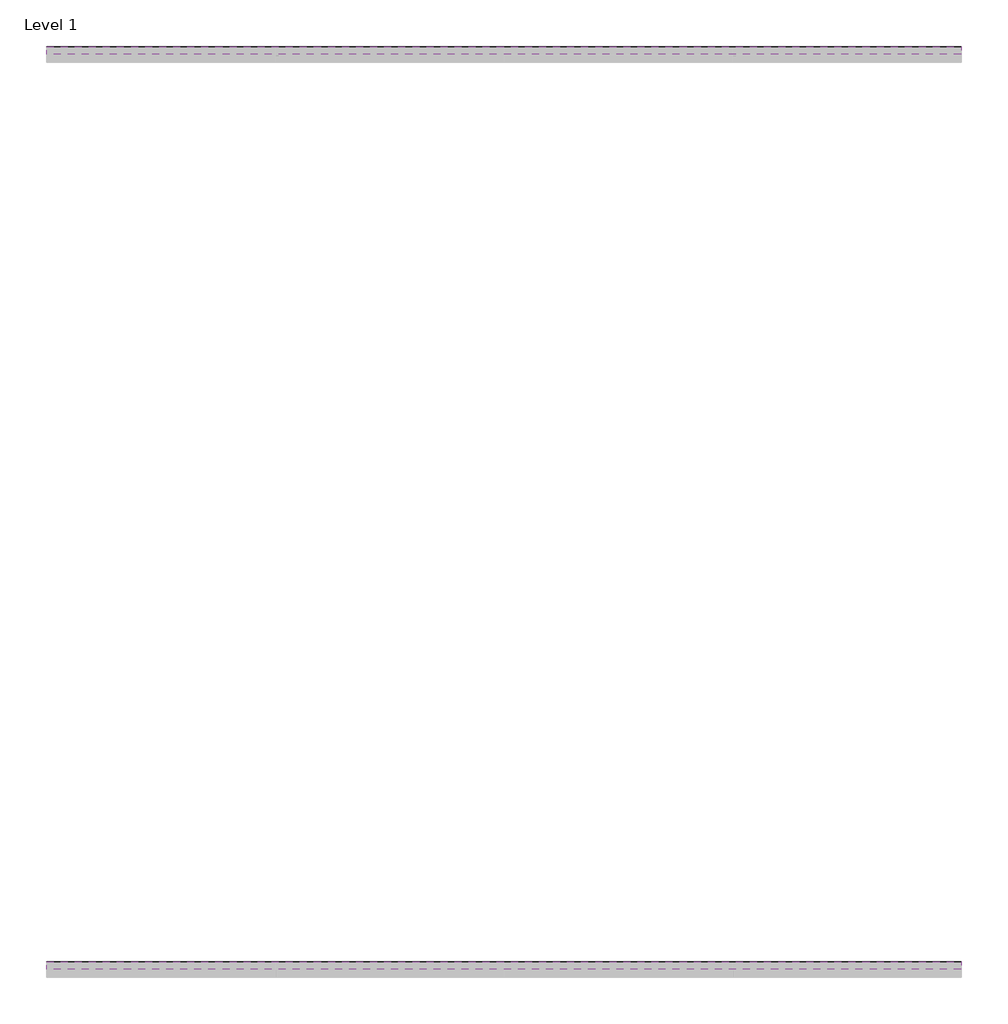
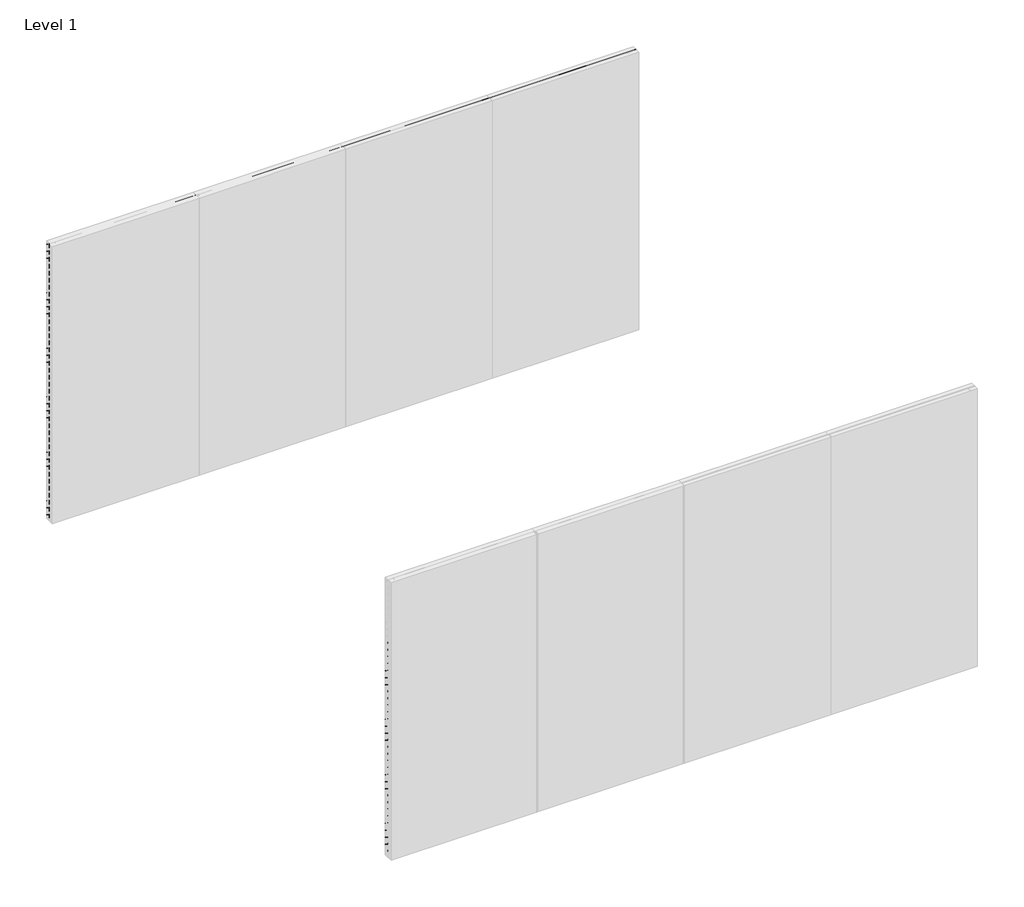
# One storey, part 2 of 2: 71 proxies.
"""IFC4 building model written with IfcOpenShell, lengths in millimetres."""

from ifc_helpers import new_model, si_unit, frame, origin, place, context, project, spatial, polyline, outline, extrude, element, save

model = new_model("IFC4")

# Units and contexts
model_context = context("Model", 3, world=origin())
ifc_project = project(units=[si_unit("LENGTHUNIT", "METRE", prefix="MILLI")], contexts=[model_context])

# Site, building, storey
site = spatial("IfcSite", under=ifc_project)
building = spatial("IfcBuilding", under=site)
storey = spatial("IfcBuildingStorey", under=building, Name="Level 1", Elevation=0.0)

# Proxies
placement = place(None, origin())
element("IfcBuildingElementProxy", 1, Name="Wall Sweeps", at=placement, inside=storey, context=model_context, shape_type="SweptSolid", body=[
    extrude(outline(polyline([(-1995.0, 3000.0), (-1995.0, 2991.2901632), (-1946.0, 2963.0), (-1946.0, 2928.0), (-1997.0, 2957.4448637), (-1997.0, 3000.0), (-1995.0, 3000.0)])), frame((0.0, 0.0, 0.0), z_axis=(1.0, 0.0, 0.0), x_axis=(0.0, 1.0, 0.0)), (0.0, 0.0, 1.0), 6000.0),
])
element("IfcBuildingElementProxy", 2, Name="Wall Sweeps", at=placement, inside=storey, context=model_context, shape_type="SweptSolid", body=[
    extrude(outline(polyline([(-1995.0, 2925.0), (-1995.0, 2916.2901632), (-1946.0, 2888.0), (-1946.0, 2853.0), (-1997.0, 2882.4448637), (-1997.0, 2925.0), (-1995.0, 2925.0)])), frame((0.0, 0.0, 0.0), z_axis=(1.0, 0.0, 0.0), x_axis=(0.0, 1.0, 0.0)), (0.0, 0.0, 1.0), 6000.0),
])
element("IfcBuildingElementProxy", 3, Name="Wall Sweeps", at=placement, inside=storey, context=model_context, shape_type="SweptSolid", body=[
    extrude(outline(polyline([(-1995.0, 2850.0), (-1995.0, 2841.2901632), (-1946.0, 2813.0), (-1946.0, 2778.0), (-1997.0, 2807.4448637), (-1997.0, 2850.0), (-1995.0, 2850.0)])), frame((0.0, 0.0, 0.0), z_axis=(1.0, 0.0, 0.0), x_axis=(0.0, 1.0, 0.0)), (0.0, 0.0, 1.0), 6000.0),
])
element("IfcBuildingElementProxy", 4, Name="Wall Sweeps", at=placement, inside=storey, context=model_context, shape_type="SweptSolid", body=[
    extrude(outline(polyline([(-1995.0, 2775.0), (-1995.0, 2766.2901632), (-1946.0, 2738.0), (-1946.0, 2703.0), (-1997.0, 2732.4448637), (-1997.0, 2775.0), (-1995.0, 2775.0)])), frame((0.0, 0.0, 0.0), z_axis=(1.0, 0.0, 0.0), x_axis=(0.0, 1.0, 0.0)), (0.0, 0.0, 1.0), 6000.0),
])
element("IfcBuildingElementProxy", 5, Name="Wall Sweeps", at=placement, inside=storey, context=model_context, shape_type="SweptSolid", body=[
    extrude(outline(polyline([(-1995.0, 2700.0), (-1995.0, 2691.2901632), (-1946.0, 2663.0), (-1946.0, 2628.0), (-1997.0, 2657.4448637), (-1997.0, 2700.0), (-1995.0, 2700.0)])), frame((0.0, 0.0, 0.0), z_axis=(1.0, 0.0, 0.0), x_axis=(0.0, 1.0, 0.0)), (0.0, 0.0, 1.0), 6000.0),
])
element("IfcBuildingElementProxy", 6, Name="Wall Sweeps", at=placement, inside=storey, context=model_context, shape_type="SweptSolid", body=[
    extrude(outline(polyline([(-1995.0, 2625.0), (-1995.0, 2616.2901632), (-1946.0, 2588.0), (-1946.0, 2553.0), (-1997.0, 2582.4448637), (-1997.0, 2625.0), (-1995.0, 2625.0)])), frame((0.0, 0.0, 0.0), z_axis=(1.0, 0.0, 0.0), x_axis=(0.0, 1.0, 0.0)), (0.0, 0.0, 1.0), 6000.0),
])
element("IfcBuildingElementProxy", 7, Name="Wall Sweeps", at=placement, inside=storey, context=model_context, shape_type="SweptSolid", body=[
    extrude(outline(polyline([(-1995.0, 2550.0), (-1995.0, 2541.2901632), (-1946.0, 2513.0), (-1946.0, 2478.0), (-1997.0, 2507.4448637), (-1997.0, 2550.0), (-1995.0, 2550.0)])), frame((0.0, 0.0, 0.0), z_axis=(1.0, 0.0, 0.0), x_axis=(0.0, 1.0, 0.0)), (0.0, 0.0, 1.0), 6000.0),
])
element("IfcBuildingElementProxy", 8, Name="Wall Sweeps", at=placement, inside=storey, context=model_context, shape_type="SweptSolid", body=[
    extrude(outline(polyline([(-1995.0, 2475.0), (-1995.0, 2466.2901632), (-1946.0, 2438.0), (-1946.0, 2403.0), (-1997.0, 2432.4448637), (-1997.0, 2475.0), (-1995.0, 2475.0)])), frame((0.0, 0.0, 0.0), z_axis=(1.0, 0.0, 0.0), x_axis=(0.0, 1.0, 0.0)), (0.0, 0.0, 1.0), 6000.0),
])
element("IfcBuildingElementProxy", 9, Name="Wall Sweeps", at=placement, inside=storey, context=model_context, shape_type="SweptSolid", body=[
    extrude(outline(polyline([(-1995.0, 2400.0), (-1995.0, 2391.2901632), (-1946.0, 2363.0), (-1946.0, 2328.0), (-1997.0, 2357.4448637), (-1997.0, 2400.0), (-1995.0, 2400.0)])), frame((0.0, 0.0, 0.0), z_axis=(1.0, 0.0, 0.0), x_axis=(0.0, 1.0, 0.0)), (0.0, 0.0, 1.0), 6000.0),
])
element("IfcBuildingElementProxy", 10, Name="Wall Sweeps", at=placement, inside=storey, context=model_context, shape_type="SweptSolid", body=[
    extrude(outline(polyline([(-1995.0, 2325.0), (-1995.0, 2316.2901632), (-1946.0, 2288.0), (-1946.0, 2253.0), (-1997.0, 2282.4448637), (-1997.0, 2325.0), (-1995.0, 2325.0)])), frame((0.0, 0.0, 0.0), z_axis=(1.0, 0.0, 0.0), x_axis=(0.0, 1.0, 0.0)), (0.0, 0.0, 1.0), 6000.0),
])
element("IfcBuildingElementProxy", 11, Name="Wall Sweeps", at=placement, inside=storey, context=model_context, shape_type="SweptSolid", body=[
    extrude(outline(polyline([(-1995.0, 2250.0), (-1995.0, 2241.2901632), (-1946.0, 2213.0), (-1946.0, 2178.0), (-1997.0, 2207.4448637), (-1997.0, 2250.0), (-1995.0, 2250.0)])), frame((0.0, 0.0, 0.0), z_axis=(1.0, 0.0, 0.0), x_axis=(0.0, 1.0, 0.0)), (0.0, 0.0, 1.0), 6000.0),
])
element("IfcBuildingElementProxy", 12, Name="Wall Sweeps", at=placement, inside=storey, context=model_context, shape_type="SweptSolid", body=[
    extrude(outline(polyline([(-1995.0, 2175.0), (-1995.0, 2166.2901632), (-1946.0, 2138.0), (-1946.0, 2103.0), (-1997.0, 2132.4448637), (-1997.0, 2175.0), (-1995.0, 2175.0)])), frame((0.0, 0.0, 0.0), z_axis=(1.0, 0.0, 0.0), x_axis=(0.0, 1.0, 0.0)), (0.0, 0.0, 1.0), 6000.0),
])
element("IfcBuildingElementProxy", 13, Name="Wall Sweeps", at=placement, inside=storey, context=model_context, shape_type="SweptSolid", body=[
    extrude(outline(polyline([(-1995.0, 2100.0), (-1995.0, 2091.2901632), (-1946.0, 2063.0), (-1946.0, 2028.0), (-1997.0, 2057.4448637), (-1997.0, 2100.0), (-1995.0, 2100.0)])), frame((0.0, 0.0, 0.0), z_axis=(1.0, 0.0, 0.0), x_axis=(0.0, 1.0, 0.0)), (0.0, 0.0, 1.0), 6000.0),
])
element("IfcBuildingElementProxy", 14, Name="Wall Sweeps", at=placement, inside=storey, context=model_context, shape_type="SweptSolid", body=[
    extrude(outline(polyline([(-1995.0, 2025.0), (-1995.0, 2016.2901632), (-1946.0, 1988.0), (-1946.0, 1953.0), (-1997.0, 1982.4448637), (-1997.0, 2025.0), (-1995.0, 2025.0)])), frame((0.0, 0.0, 0.0), z_axis=(1.0, 0.0, 0.0), x_axis=(0.0, 1.0, 0.0)), (0.0, 0.0, 1.0), 6000.0),
])
element("IfcBuildingElementProxy", 15, Name="Wall Sweeps", at=placement, inside=storey, context=model_context, shape_type="SweptSolid", body=[
    extrude(outline(polyline([(-1995.0, 1950.0), (-1995.0, 1941.2901632), (-1946.0, 1913.0), (-1946.0, 1878.0), (-1997.0, 1907.4448637), (-1997.0, 1950.0), (-1995.0, 1950.0)])), frame((0.0, 0.0, 0.0), z_axis=(1.0, 0.0, 0.0), x_axis=(0.0, 1.0, 0.0)), (0.0, 0.0, 1.0), 6000.0),
])
element("IfcBuildingElementProxy", 16, Name="Wall Sweeps", at=placement, inside=storey, context=model_context, shape_type="SweptSolid", body=[
    extrude(outline(polyline([(-1995.0, 1875.0), (-1995.0, 1866.2901632), (-1946.0, 1838.0), (-1946.0, 1803.0), (-1997.0, 1832.4448637), (-1997.0, 1875.0), (-1995.0, 1875.0)])), frame((0.0, 0.0, 0.0), z_axis=(1.0, 0.0, 0.0), x_axis=(0.0, 1.0, 0.0)), (0.0, 0.0, 1.0), 6000.0),
])
element("IfcBuildingElementProxy", 17, Name="Wall Sweeps", at=placement, inside=storey, context=model_context, shape_type="SweptSolid", body=[
    extrude(outline(polyline([(-1995.0, 1800.0), (-1995.0, 1791.2901632), (-1946.0, 1763.0), (-1946.0, 1728.0), (-1997.0, 1757.4448637), (-1997.0, 1800.0), (-1995.0, 1800.0)])), frame((0.0, 0.0, 0.0), z_axis=(1.0, 0.0, 0.0), x_axis=(0.0, 1.0, 0.0)), (0.0, 0.0, 1.0), 6000.0),
])
element("IfcBuildingElementProxy", 18, Name="Wall Sweeps", at=placement, inside=storey, context=model_context, shape_type="SweptSolid", body=[
    extrude(outline(polyline([(-1995.0, 1725.0), (-1995.0, 1716.2901632), (-1946.0, 1688.0), (-1946.0, 1653.0), (-1997.0, 1682.4448637), (-1997.0, 1725.0), (-1995.0, 1725.0)])), frame((0.0, 0.0, 0.0), z_axis=(1.0, 0.0, 0.0), x_axis=(0.0, 1.0, 0.0)), (0.0, 0.0, 1.0), 6000.0),
])
element("IfcBuildingElementProxy", 19, Name="Wall Sweeps", at=placement, inside=storey, context=model_context, shape_type="SweptSolid", body=[
    extrude(outline(polyline([(-1995.0, 1650.0), (-1995.0, 1641.2901632), (-1946.0, 1613.0), (-1946.0, 1578.0), (-1997.0, 1607.4448637), (-1997.0, 1650.0), (-1995.0, 1650.0)])), frame((0.0, 0.0, 0.0), z_axis=(1.0, 0.0, 0.0), x_axis=(0.0, 1.0, 0.0)), (0.0, 0.0, 1.0), 6000.0),
])
element("IfcBuildingElementProxy", 20, Name="Wall Sweeps", at=placement, inside=storey, context=model_context, shape_type="SweptSolid", body=[
    extrude(outline(polyline([(-1995.0, 1575.0), (-1995.0, 1566.2901632), (-1946.0, 1538.0), (-1946.0, 1503.0), (-1997.0, 1532.4448637), (-1997.0, 1575.0), (-1995.0, 1575.0)])), frame((0.0, 0.0, 0.0), z_axis=(1.0, 0.0, 0.0), x_axis=(0.0, 1.0, 0.0)), (0.0, 0.0, 1.0), 6000.0),
])
element("IfcBuildingElementProxy", 21, Name="Wall Sweeps", at=placement, inside=storey, context=model_context, shape_type="SweptSolid", body=[
    extrude(outline(polyline([(-1995.0, 1500.0), (-1995.0, 1491.2901632), (-1946.0, 1463.0), (-1946.0, 1428.0), (-1997.0, 1457.4448637), (-1997.0, 1500.0), (-1995.0, 1500.0)])), frame((0.0, 0.0, 0.0), z_axis=(1.0, 0.0, 0.0), x_axis=(0.0, 1.0, 0.0)), (0.0, 0.0, 1.0), 6000.0),
])
element("IfcBuildingElementProxy", 22, Name="Wall Sweeps", at=placement, inside=storey, context=model_context, shape_type="SweptSolid", body=[
    extrude(outline(polyline([(-1995.0, 1425.0), (-1995.0, 1416.2901632), (-1946.0, 1388.0), (-1946.0, 1353.0), (-1997.0, 1382.4448637), (-1997.0, 1425.0), (-1995.0, 1425.0)])), frame((0.0, 0.0, 0.0), z_axis=(1.0, 0.0, 0.0), x_axis=(0.0, 1.0, 0.0)), (0.0, 0.0, 1.0), 6000.0),
])
element("IfcBuildingElementProxy", 23, Name="Wall Sweeps", at=placement, inside=storey, context=model_context, shape_type="SweptSolid", body=[
    extrude(outline(polyline([(-1995.0, 1350.0), (-1995.0, 1341.2901632), (-1946.0, 1313.0), (-1946.0, 1278.0), (-1997.0, 1307.4448637), (-1997.0, 1350.0), (-1995.0, 1350.0)])), frame((0.0, 0.0, 0.0), z_axis=(1.0, 0.0, 0.0), x_axis=(0.0, 1.0, 0.0)), (0.0, 0.0, 1.0), 6000.0),
])
element("IfcBuildingElementProxy", 24, Name="Wall Sweeps", at=placement, inside=storey, context=model_context, shape_type="SweptSolid", body=[
    extrude(outline(polyline([(-1995.0, 1275.0), (-1995.0, 1266.2901632), (-1946.0, 1238.0), (-1946.0, 1203.0), (-1997.0, 1232.4448637), (-1997.0, 1275.0), (-1995.0, 1275.0)])), frame((0.0, 0.0, 0.0), z_axis=(1.0, 0.0, 0.0), x_axis=(0.0, 1.0, 0.0)), (0.0, 0.0, 1.0), 6000.0),
])
element("IfcBuildingElementProxy", 25, Name="Wall Sweeps", at=placement, inside=storey, context=model_context, shape_type="SweptSolid", body=[
    extrude(outline(polyline([(-1995.0, 1200.0), (-1995.0, 1191.2901632), (-1946.0, 1163.0), (-1946.0, 1128.0), (-1997.0, 1157.4448637), (-1997.0, 1200.0), (-1995.0, 1200.0)])), frame((0.0, 0.0, 0.0), z_axis=(1.0, 0.0, 0.0), x_axis=(0.0, 1.0, 0.0)), (0.0, 0.0, 1.0), 6000.0),
])
element("IfcBuildingElementProxy", 26, Name="Wall Sweeps", at=placement, inside=storey, context=model_context, shape_type="SweptSolid", body=[
    extrude(outline(polyline([(-1995.0, 1125.0), (-1995.0, 1116.2901632), (-1946.0, 1088.0), (-1946.0, 1053.0), (-1997.0, 1082.4448637), (-1997.0, 1125.0), (-1995.0, 1125.0)])), frame((0.0, 0.0, 0.0), z_axis=(1.0, 0.0, 0.0), x_axis=(0.0, 1.0, 0.0)), (0.0, 0.0, 1.0), 6000.0),
])
element("IfcBuildingElementProxy", 27, Name="Wall Sweeps", at=placement, inside=storey, context=model_context, shape_type="SweptSolid", body=[
    extrude(outline(polyline([(-1995.0, 1050.0), (-1995.0, 1041.2901632), (-1946.0, 1013.0), (-1946.0, 978.0), (-1997.0, 1007.4448637), (-1997.0, 1050.0), (-1995.0, 1050.0)])), frame((0.0, 0.0, 0.0), z_axis=(1.0, 0.0, 0.0), x_axis=(0.0, 1.0, 0.0)), (0.0, 0.0, 1.0), 6000.0),
])
element("IfcBuildingElementProxy", 28, Name="Wall Sweeps", at=placement, inside=storey, context=model_context, shape_type="SweptSolid", body=[
    extrude(outline(polyline([(-1995.0, 975.0), (-1995.0, 966.2901632), (-1946.0, 938.0), (-1946.0, 903.0), (-1997.0, 932.4448637), (-1997.0, 975.0), (-1995.0, 975.0)])), frame((0.0, 0.0, 0.0), z_axis=(1.0, 0.0, 0.0), x_axis=(0.0, 1.0, 0.0)), (0.0, 0.0, 1.0), 6000.0),
])
element("IfcBuildingElementProxy", 29, Name="Wall Sweeps", at=placement, inside=storey, context=model_context, shape_type="SweptSolid", body=[
    extrude(outline(polyline([(-1995.0, 900.0), (-1995.0, 891.2901632), (-1946.0, 863.0), (-1946.0, 828.0), (-1997.0, 857.4448637), (-1997.0, 900.0), (-1995.0, 900.0)])), frame((0.0, 0.0, 0.0), z_axis=(1.0, 0.0, 0.0), x_axis=(0.0, 1.0, 0.0)), (0.0, 0.0, 1.0), 6000.0),
])
element("IfcBuildingElementProxy", 30, Name="Wall Sweeps", at=placement, inside=storey, context=model_context, shape_type="SweptSolid", body=[
    extrude(outline(polyline([(-1995.0, 825.0), (-1995.0, 816.2901632), (-1946.0, 788.0), (-1946.0, 753.0), (-1997.0, 782.4448637), (-1997.0, 825.0), (-1995.0, 825.0)])), frame((0.0, 0.0, 0.0), z_axis=(1.0, 0.0, 0.0), x_axis=(0.0, 1.0, 0.0)), (0.0, 0.0, 1.0), 6000.0),
])
element("IfcBuildingElementProxy", 31, Name="Wall Sweeps", at=placement, inside=storey, context=model_context, shape_type="SweptSolid", body=[
    extrude(outline(polyline([(-1995.0, 750.0), (-1995.0, 741.2901632), (-1946.0, 713.0), (-1946.0, 678.0), (-1997.0, 707.4448637), (-1997.0, 750.0), (-1995.0, 750.0)])), frame((0.0, 0.0, 0.0), z_axis=(1.0, 0.0, 0.0), x_axis=(0.0, 1.0, 0.0)), (0.0, 0.0, 1.0), 6000.0),
])
element("IfcBuildingElementProxy", 32, Name="Wall Sweeps", at=placement, inside=storey, context=model_context, shape_type="SweptSolid", body=[
    extrude(outline(polyline([(-1995.0, 675.0), (-1995.0, 666.2901632), (-1946.0, 638.0), (-1946.0, 603.0), (-1997.0, 632.4448637), (-1997.0, 675.0), (-1995.0, 675.0)])), frame((0.0, 0.0, 0.0), z_axis=(1.0, 0.0, 0.0), x_axis=(0.0, 1.0, 0.0)), (0.0, 0.0, 1.0), 6000.0),
])
element("IfcBuildingElementProxy", 33, Name="Wall Sweeps", at=placement, inside=storey, context=model_context, shape_type="SweptSolid", body=[
    extrude(outline(polyline([(-1995.0, 600.0), (-1995.0, 591.2901632), (-1946.0, 563.0), (-1946.0, 528.0), (-1997.0, 557.4448637), (-1997.0, 600.0), (-1995.0, 600.0)])), frame((0.0, 0.0, 0.0), z_axis=(1.0, 0.0, 0.0), x_axis=(0.0, 1.0, 0.0)), (0.0, 0.0, 1.0), 6000.0),
])
element("IfcBuildingElementProxy", 34, Name="Wall Sweeps", at=placement, inside=storey, context=model_context, shape_type="SweptSolid", body=[
    extrude(outline(polyline([(-1995.0, 525.0), (-1995.0, 516.2901632), (-1946.0, 488.0), (-1946.0, 453.0), (-1997.0, 482.4448637), (-1997.0, 525.0), (-1995.0, 525.0)])), frame((0.0, 0.0, 0.0), z_axis=(1.0, 0.0, 0.0), x_axis=(0.0, 1.0, 0.0)), (0.0, 0.0, 1.0), 6000.0),
])
element("IfcBuildingElementProxy", 35, Name="Wall Sweeps", at=placement, inside=storey, context=model_context, shape_type="SweptSolid", body=[
    extrude(outline(polyline([(-1995.0, 450.0), (-1995.0, 441.2901632), (-1946.0, 413.0), (-1946.0, 378.0), (-1997.0, 407.4448637), (-1997.0, 450.0), (-1995.0, 450.0)])), frame((0.0, 0.0, 0.0), z_axis=(1.0, 0.0, 0.0), x_axis=(0.0, 1.0, 0.0)), (0.0, 0.0, 1.0), 6000.0),
])
element("IfcBuildingElementProxy", 36, Name="Wall Sweeps", at=placement, inside=storey, context=model_context, shape_type="SweptSolid", body=[
    extrude(outline(polyline([(-1995.0, 375.0), (-1995.0, 366.2901632), (-1946.0, 338.0), (-1946.0, 303.0), (-1997.0, 332.4448637), (-1997.0, 375.0), (-1995.0, 375.0)])), frame((0.0, 0.0, 0.0), z_axis=(1.0, 0.0, 0.0), x_axis=(0.0, 1.0, 0.0)), (0.0, 0.0, 1.0), 6000.0),
])
element("IfcBuildingElementProxy", 37, Name="Wall Sweeps", at=placement, inside=storey, context=model_context, shape_type="SweptSolid", body=[
    extrude(outline(polyline([(-1995.0, 300.0), (-1995.0, 291.2901632), (-1946.0, 263.0), (-1946.0, 228.0), (-1997.0, 257.4448637), (-1997.0, 300.0), (-1995.0, 300.0)])), frame((0.0, 0.0, 0.0), z_axis=(1.0, 0.0, 0.0), x_axis=(0.0, 1.0, 0.0)), (0.0, 0.0, 1.0), 6000.0),
])
element("IfcBuildingElementProxy", 38, Name="Wall Sweeps", at=placement, inside=storey, context=model_context, shape_type="SweptSolid", body=[
    extrude(outline(polyline([(-1995.0, 225.0), (-1995.0, 216.2901632), (-1946.0, 188.0), (-1946.0, 153.0), (-1997.0, 182.4448637), (-1997.0, 225.0), (-1995.0, 225.0)])), frame((0.0, 0.0, 0.0), z_axis=(1.0, 0.0, 0.0), x_axis=(0.0, 1.0, 0.0)), (0.0, 0.0, 1.0), 6000.0),
])
element("IfcBuildingElementProxy", 39, Name="Wall Sweeps", at=placement, inside=storey, context=model_context, shape_type="SweptSolid", body=[
    extrude(outline(polyline([(-1995.0, 150.0), (-1995.0, 141.2901632), (-1946.0, 113.0), (-1946.0, 78.0), (-1997.0, 107.4448637), (-1997.0, 150.0), (-1995.0, 150.0)])), frame((0.0, 0.0, 0.0), z_axis=(1.0, 0.0, 0.0), x_axis=(0.0, 1.0, 0.0)), (0.0, 0.0, 1.0), 6000.0),
])
element("IfcBuildingElementProxy", 40, Name="Wall Sweeps", at=placement, inside=storey, context=model_context, shape_type="SweptSolid", body=[
    extrude(outline(polyline([(-1995.0, 75.0), (-1995.0, 66.2901632), (-1946.0, 38.0), (-1946.0, 3.0), (-1997.0, 32.4448637), (-1997.0, 75.0), (-1995.0, 75.0)])), frame((0.0, 0.0, 0.0), z_axis=(1.0, 0.0, 0.0), x_axis=(0.0, 1.0, 0.0)), (0.0, 0.0, 1.0), 6000.0),
])
element("IfcBuildingElementProxy", 41, Name="Wall Sweeps", at=placement, inside=storey, context=model_context, shape_type="SweptSolid", body=[
    extrude(outline(polyline([(-7995.0, 2325.0), (-7995.0, 2316.2901632), (-7946.0, 2288.0), (-7946.0, 2253.0), (-7997.0, 2282.4448637), (-7997.0, 2325.0), (-7995.0, 2325.0)])), frame((0.0, 0.0, 0.0), z_axis=(1.0, 0.0, 0.0), x_axis=(0.0, 1.0, 0.0)), (0.0, 0.0, 1.0), 6000.0),
])
element("IfcBuildingElementProxy", 42, Name="Wall Sweeps", at=placement, inside=storey, context=model_context, shape_type="SweptSolid", body=[
    extrude(outline(polyline([(-7995.0, 2250.0), (-7995.0, 2241.2901632), (-7946.0, 2213.0), (-7946.0, 2178.0), (-7997.0, 2207.4448637), (-7997.0, 2250.0), (-7995.0, 2250.0)])), frame((0.0, 0.0, 0.0), z_axis=(1.0, 0.0, 0.0), x_axis=(0.0, 1.0, 0.0)), (0.0, 0.0, 1.0), 6000.0),
])
element("IfcBuildingElementProxy", 43, Name="Wall Sweeps", at=placement, inside=storey, context=model_context, shape_type="SweptSolid", body=[
    extrude(outline(polyline([(-7995.0, 2175.0), (-7995.0, 2166.2901632), (-7946.0, 2138.0), (-7946.0, 2103.0), (-7997.0, 2132.4448637), (-7997.0, 2175.0), (-7995.0, 2175.0)])), frame((0.0, 0.0, 0.0), z_axis=(1.0, 0.0, 0.0), x_axis=(0.0, 1.0, 0.0)), (0.0, 0.0, 1.0), 6000.0),
])
element("IfcBuildingElementProxy", 44, Name="Wall Sweeps", at=placement, inside=storey, context=model_context, shape_type="SweptSolid", body=[
    extrude(outline(polyline([(-7995.0, 2100.0), (-7995.0, 2091.2901632), (-7946.0, 2063.0), (-7946.0, 2028.0), (-7997.0, 2057.4448637), (-7997.0, 2100.0), (-7995.0, 2100.0)])), frame((0.0, 0.0, 0.0), z_axis=(1.0, 0.0, 0.0), x_axis=(0.0, 1.0, 0.0)), (0.0, 0.0, 1.0), 6000.0),
])
element("IfcBuildingElementProxy", 45, Name="Wall Sweeps", at=placement, inside=storey, context=model_context, shape_type="SweptSolid", body=[
    extrude(outline(polyline([(-7995.0, 2025.0), (-7995.0, 2016.2901632), (-7946.0, 1988.0), (-7946.0, 1953.0), (-7997.0, 1982.4448637), (-7997.0, 2025.0), (-7995.0, 2025.0)])), frame((0.0, 0.0, 0.0), z_axis=(1.0, 0.0, 0.0), x_axis=(0.0, 1.0, 0.0)), (0.0, 0.0, 1.0), 6000.0),
])
element("IfcBuildingElementProxy", 46, Name="Wall Sweeps", at=placement, inside=storey, context=model_context, shape_type="SweptSolid", body=[
    extrude(outline(polyline([(-7995.0, 1950.0), (-7995.0, 1941.2901632), (-7946.0, 1913.0), (-7946.0, 1878.0), (-7997.0, 1907.4448637), (-7997.0, 1950.0), (-7995.0, 1950.0)])), frame((0.0, 0.0, 0.0), z_axis=(1.0, 0.0, 0.0), x_axis=(0.0, 1.0, 0.0)), (0.0, 0.0, 1.0), 6000.0),
])
element("IfcBuildingElementProxy", 47, Name="Wall Sweeps", at=placement, inside=storey, context=model_context, shape_type="SweptSolid", body=[
    extrude(outline(polyline([(-7995.0, 1875.0), (-7995.0, 1866.2901632), (-7946.0, 1838.0), (-7946.0, 1803.0), (-7997.0, 1832.4448637), (-7997.0, 1875.0), (-7995.0, 1875.0)])), frame((0.0, 0.0, 0.0), z_axis=(1.0, 0.0, 0.0), x_axis=(0.0, 1.0, 0.0)), (0.0, 0.0, 1.0), 6000.0),
])
element("IfcBuildingElementProxy", 48, Name="Wall Sweeps", at=placement, inside=storey, context=model_context, shape_type="SweptSolid", body=[
    extrude(outline(polyline([(-7995.0, 1800.0), (-7995.0, 1791.2901632), (-7946.0, 1763.0), (-7946.0, 1728.0), (-7997.0, 1757.4448637), (-7997.0, 1800.0), (-7995.0, 1800.0)])), frame((0.0, 0.0, 0.0), z_axis=(1.0, 0.0, 0.0), x_axis=(0.0, 1.0, 0.0)), (0.0, 0.0, 1.0), 6000.0),
])
element("IfcBuildingElementProxy", 49, Name="Wall Sweeps", at=placement, inside=storey, context=model_context, shape_type="SweptSolid", body=[
    extrude(outline(polyline([(-7995.0, 1725.0), (-7995.0, 1716.2901632), (-7946.0, 1688.0), (-7946.0, 1653.0), (-7997.0, 1682.4448637), (-7997.0, 1725.0), (-7995.0, 1725.0)])), frame((0.0, 0.0, 0.0), z_axis=(1.0, 0.0, 0.0), x_axis=(0.0, 1.0, 0.0)), (0.0, 0.0, 1.0), 6000.0),
])
element("IfcBuildingElementProxy", 50, Name="Wall Sweeps", at=placement, inside=storey, context=model_context, shape_type="SweptSolid", body=[
    extrude(outline(polyline([(-7995.0, 1650.0), (-7995.0, 1641.2901632), (-7946.0, 1613.0), (-7946.0, 1578.0), (-7997.0, 1607.4448637), (-7997.0, 1650.0), (-7995.0, 1650.0)])), frame((0.0, 0.0, 0.0), z_axis=(1.0, 0.0, 0.0), x_axis=(0.0, 1.0, 0.0)), (0.0, 0.0, 1.0), 6000.0),
])
element("IfcBuildingElementProxy", 51, Name="Wall Sweeps", at=placement, inside=storey, context=model_context, shape_type="SweptSolid", body=[
    extrude(outline(polyline([(-7995.0, 1575.0), (-7995.0, 1566.2901632), (-7946.0, 1538.0), (-7946.0, 1503.0), (-7997.0, 1532.4448637), (-7997.0, 1575.0), (-7995.0, 1575.0)])), frame((0.0, 0.0, 0.0), z_axis=(1.0, 0.0, 0.0), x_axis=(0.0, 1.0, 0.0)), (0.0, 0.0, 1.0), 6000.0),
])
element("IfcBuildingElementProxy", 52, Name="Wall Sweeps", at=placement, inside=storey, context=model_context, shape_type="SweptSolid", body=[
    extrude(outline(polyline([(-7995.0, 1500.0), (-7995.0, 1491.2901632), (-7946.0, 1463.0), (-7946.0, 1428.0), (-7997.0, 1457.4448637), (-7997.0, 1500.0), (-7995.0, 1500.0)])), frame((0.0, 0.0, 0.0), z_axis=(1.0, 0.0, 0.0), x_axis=(0.0, 1.0, 0.0)), (0.0, 0.0, 1.0), 6000.0),
])
element("IfcBuildingElementProxy", 53, Name="Wall Sweeps", at=placement, inside=storey, context=model_context, shape_type="SweptSolid", body=[
    extrude(outline(polyline([(-7995.0, 1425.0), (-7995.0, 1416.2901632), (-7946.0, 1388.0), (-7946.0, 1353.0), (-7997.0, 1382.4448637), (-7997.0, 1425.0), (-7995.0, 1425.0)])), frame((0.0, 0.0, 0.0), z_axis=(1.0, 0.0, 0.0), x_axis=(0.0, 1.0, 0.0)), (0.0, 0.0, 1.0), 6000.0),
])
element("IfcBuildingElementProxy", 54, Name="Wall Sweeps", at=placement, inside=storey, context=model_context, shape_type="SweptSolid", body=[
    extrude(outline(polyline([(-7995.0, 1350.0), (-7995.0, 1341.2901632), (-7946.0, 1313.0), (-7946.0, 1278.0), (-7997.0, 1307.4448637), (-7997.0, 1350.0), (-7995.0, 1350.0)])), frame((0.0, 0.0, 0.0), z_axis=(1.0, 0.0, 0.0), x_axis=(0.0, 1.0, 0.0)), (0.0, 0.0, 1.0), 6000.0),
])
element("IfcBuildingElementProxy", 55, Name="Wall Sweeps", at=placement, inside=storey, context=model_context, shape_type="SweptSolid", body=[
    extrude(outline(polyline([(-7995.0, 1275.0), (-7995.0, 1266.2901632), (-7946.0, 1238.0), (-7946.0, 1203.0), (-7997.0, 1232.4448637), (-7997.0, 1275.0), (-7995.0, 1275.0)])), frame((0.0, 0.0, 0.0), z_axis=(1.0, 0.0, 0.0), x_axis=(0.0, 1.0, 0.0)), (0.0, 0.0, 1.0), 6000.0),
])
element("IfcBuildingElementProxy", 56, Name="Wall Sweeps", at=placement, inside=storey, context=model_context, shape_type="SweptSolid", body=[
    extrude(outline(polyline([(-7995.0, 1200.0), (-7995.0, 1191.2901632), (-7946.0, 1163.0), (-7946.0, 1128.0), (-7997.0, 1157.4448637), (-7997.0, 1200.0), (-7995.0, 1200.0)])), frame((0.0, 0.0, 0.0), z_axis=(1.0, 0.0, 0.0), x_axis=(0.0, 1.0, 0.0)), (0.0, 0.0, 1.0), 6000.0),
])
element("IfcBuildingElementProxy", 57, Name="Wall Sweeps", at=placement, inside=storey, context=model_context, shape_type="SweptSolid", body=[
    extrude(outline(polyline([(-7995.0, 1125.0), (-7995.0, 1116.2901632), (-7946.0, 1088.0), (-7946.0, 1053.0), (-7997.0, 1082.4448637), (-7997.0, 1125.0), (-7995.0, 1125.0)])), frame((0.0, 0.0, 0.0), z_axis=(1.0, 0.0, 0.0), x_axis=(0.0, 1.0, 0.0)), (0.0, 0.0, 1.0), 6000.0),
])
element("IfcBuildingElementProxy", 58, Name="Wall Sweeps", at=placement, inside=storey, context=model_context, shape_type="SweptSolid", body=[
    extrude(outline(polyline([(-7995.0, 1050.0), (-7995.0, 1041.2901632), (-7946.0, 1013.0), (-7946.0, 978.0), (-7997.0, 1007.4448637), (-7997.0, 1050.0), (-7995.0, 1050.0)])), frame((0.0, 0.0, 0.0), z_axis=(1.0, 0.0, 0.0), x_axis=(0.0, 1.0, 0.0)), (0.0, 0.0, 1.0), 6000.0),
])
element("IfcBuildingElementProxy", 59, Name="Wall Sweeps", at=placement, inside=storey, context=model_context, shape_type="SweptSolid", body=[
    extrude(outline(polyline([(-7995.0, 975.0), (-7995.0, 966.2901632), (-7946.0, 938.0), (-7946.0, 903.0), (-7997.0, 932.4448637), (-7997.0, 975.0), (-7995.0, 975.0)])), frame((0.0, 0.0, 0.0), z_axis=(1.0, 0.0, 0.0), x_axis=(0.0, 1.0, 0.0)), (0.0, 0.0, 1.0), 6000.0),
])
element("IfcBuildingElementProxy", 60, Name="Wall Sweeps", at=placement, inside=storey, context=model_context, shape_type="SweptSolid", body=[
    extrude(outline(polyline([(-7995.0, 900.0), (-7995.0, 891.2901632), (-7946.0, 863.0), (-7946.0, 828.0), (-7997.0, 857.4448637), (-7997.0, 900.0), (-7995.0, 900.0)])), frame((0.0, 0.0, 0.0), z_axis=(1.0, 0.0, 0.0), x_axis=(0.0, 1.0, 0.0)), (0.0, 0.0, 1.0), 6000.0),
])
element("IfcBuildingElementProxy", 61, Name="Wall Sweeps", at=placement, inside=storey, context=model_context, shape_type="SweptSolid", body=[
    extrude(outline(polyline([(-7995.0, 825.0), (-7995.0, 816.2901632), (-7946.0, 788.0), (-7946.0, 753.0), (-7997.0, 782.4448637), (-7997.0, 825.0), (-7995.0, 825.0)])), frame((0.0, 0.0, 0.0), z_axis=(1.0, 0.0, 0.0), x_axis=(0.0, 1.0, 0.0)), (0.0, 0.0, 1.0), 6000.0),
])
element("IfcBuildingElementProxy", 62, Name="Wall Sweeps", at=placement, inside=storey, context=model_context, shape_type="SweptSolid", body=[
    extrude(outline(polyline([(-7995.0, 750.0), (-7995.0, 741.2901632), (-7946.0, 713.0), (-7946.0, 678.0), (-7997.0, 707.4448637), (-7997.0, 750.0), (-7995.0, 750.0)])), frame((0.0, 0.0, 0.0), z_axis=(1.0, 0.0, 0.0), x_axis=(0.0, 1.0, 0.0)), (0.0, 0.0, 1.0), 6000.0),
])
element("IfcBuildingElementProxy", 63, Name="Wall Sweeps", at=placement, inside=storey, context=model_context, shape_type="SweptSolid", body=[
    extrude(outline(polyline([(-7995.0, 675.0), (-7995.0, 666.2901632), (-7946.0, 638.0), (-7946.0, 603.0), (-7997.0, 632.4448637), (-7997.0, 675.0), (-7995.0, 675.0)])), frame((0.0, 0.0, 0.0), z_axis=(1.0, 0.0, 0.0), x_axis=(0.0, 1.0, 0.0)), (0.0, 0.0, 1.0), 6000.0),
])
element("IfcBuildingElementProxy", 64, Name="Wall Sweeps", at=placement, inside=storey, context=model_context, shape_type="SweptSolid", body=[
    extrude(outline(polyline([(-7995.0, 600.0), (-7995.0, 591.2901632), (-7946.0, 563.0), (-7946.0, 528.0), (-7997.0, 557.4448637), (-7997.0, 600.0), (-7995.0, 600.0)])), frame((0.0, 0.0, 0.0), z_axis=(1.0, 0.0, 0.0), x_axis=(0.0, 1.0, 0.0)), (0.0, 0.0, 1.0), 6000.0),
])
element("IfcBuildingElementProxy", 65, Name="Wall Sweeps", at=placement, inside=storey, context=model_context, shape_type="SweptSolid", body=[
    extrude(outline(polyline([(-7995.0, 525.0), (-7995.0, 516.2901632), (-7946.0, 488.0), (-7946.0, 453.0), (-7997.0, 482.4448637), (-7997.0, 525.0), (-7995.0, 525.0)])), frame((0.0, 0.0, 0.0), z_axis=(1.0, 0.0, 0.0), x_axis=(0.0, 1.0, 0.0)), (0.0, 0.0, 1.0), 6000.0),
])
element("IfcBuildingElementProxy", 66, Name="Wall Sweeps", at=placement, inside=storey, context=model_context, shape_type="SweptSolid", body=[
    extrude(outline(polyline([(-7995.0, 450.0), (-7995.0, 441.2901632), (-7946.0, 413.0), (-7946.0, 378.0), (-7997.0, 407.4448637), (-7997.0, 450.0), (-7995.0, 450.0)])), frame((0.0, 0.0, 0.0), z_axis=(1.0, 0.0, 0.0), x_axis=(0.0, 1.0, 0.0)), (0.0, 0.0, 1.0), 6000.0),
])
element("IfcBuildingElementProxy", 67, Name="Wall Sweeps", at=placement, inside=storey, context=model_context, shape_type="SweptSolid", body=[
    extrude(outline(polyline([(-7995.0, 375.0), (-7995.0, 366.2901632), (-7946.0, 338.0), (-7946.0, 303.0), (-7997.0, 332.4448637), (-7997.0, 375.0), (-7995.0, 375.0)])), frame((0.0, 0.0, 0.0), z_axis=(1.0, 0.0, 0.0), x_axis=(0.0, 1.0, 0.0)), (0.0, 0.0, 1.0), 6000.0),
])
element("IfcBuildingElementProxy", 68, Name="Wall Sweeps", at=placement, inside=storey, context=model_context, shape_type="SweptSolid", body=[
    extrude(outline(polyline([(-7995.0, 300.0), (-7995.0, 291.2901632), (-7946.0, 263.0), (-7946.0, 228.0), (-7997.0, 257.4448637), (-7997.0, 300.0), (-7995.0, 300.0)])), frame((0.0, 0.0, 0.0), z_axis=(1.0, 0.0, 0.0), x_axis=(0.0, 1.0, 0.0)), (0.0, 0.0, 1.0), 6000.0),
])
element("IfcBuildingElementProxy", 69, Name="Wall Sweeps", at=placement, inside=storey, context=model_context, shape_type="SweptSolid", body=[
    extrude(outline(polyline([(-7995.0, 225.0), (-7995.0, 216.2901632), (-7946.0, 188.0), (-7946.0, 153.0), (-7997.0, 182.4448637), (-7997.0, 225.0), (-7995.0, 225.0)])), frame((0.0, 0.0, 0.0), z_axis=(1.0, 0.0, 0.0), x_axis=(0.0, 1.0, 0.0)), (0.0, 0.0, 1.0), 6000.0),
])
element("IfcBuildingElementProxy", 70, Name="Wall Sweeps", at=placement, inside=storey, context=model_context, shape_type="SweptSolid", body=[
    extrude(outline(polyline([(-7995.0, 150.0), (-7995.0, 141.2901632), (-7946.0, 113.0), (-7946.0, 78.0), (-7997.0, 107.4448637), (-7997.0, 150.0), (-7995.0, 150.0)])), frame((0.0, 0.0, 0.0), z_axis=(1.0, 0.0, 0.0), x_axis=(0.0, 1.0, 0.0)), (0.0, 0.0, 1.0), 6000.0),
])
element("IfcBuildingElementProxy", 71, Name="Wall Sweeps", at=placement, inside=storey, context=model_context, shape_type="SweptSolid", body=[
    extrude(outline(polyline([(-7995.0, 75.0), (-7995.0, 66.2901632), (-7946.0, 38.0), (-7946.0, 3.0), (-7997.0, 32.4448637), (-7997.0, 75.0), (-7995.0, 75.0)])), frame((0.0, 0.0, 0.0), z_axis=(1.0, 0.0, 0.0), x_axis=(0.0, 1.0, 0.0)), (0.0, 0.0, 1.0), 6000.0),
])

save(model, "model.ifc")
